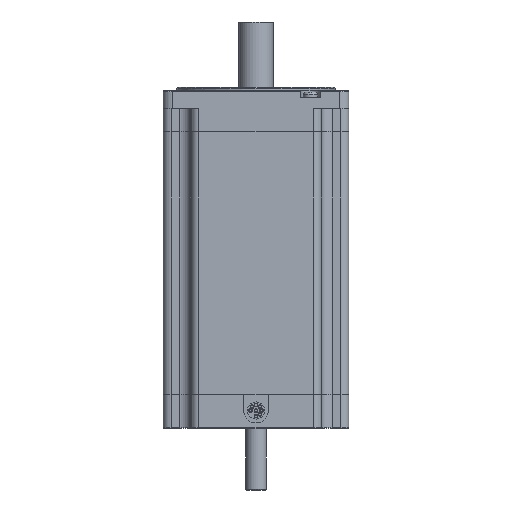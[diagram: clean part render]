
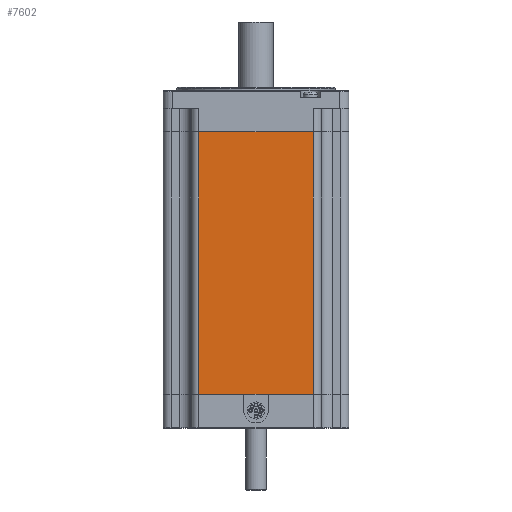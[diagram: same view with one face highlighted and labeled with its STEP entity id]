
A CAD part, front view. The second image highlights one B-rep face of the part: STEP entity #7602.
In plain terms, the highlighted planar face has unit normal (0, -1, 0).
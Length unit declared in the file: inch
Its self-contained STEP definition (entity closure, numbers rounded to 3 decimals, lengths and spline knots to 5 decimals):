
#3813 = VERTEX_POINT ( 'NONE', #6081 ) ;
#6081 = CARTESIAN_POINT ( 'NONE',  ( -1.04, -1.689, -0.75 ) ) ;
#7599 = EDGE_LOOP ( 'NONE', ( #13364, #13402, #7605, #13413 ) ) ;
#7600 = VERTEX_POINT ( 'NONE', #9735 ) ;
#7602 = ADVANCED_FACE ( 'NONE', ( #9724 ), #9765, .F. ) ;
#7603 = VERTEX_POINT ( 'NONE', #9761 ) ;
#7604 = EDGE_CURVE ( 'NONE', #7600, #7603, #9785, .T. ) ;
#7605 = ORIENTED_EDGE ( 'NONE', *, *, #7604, .F. ) ;
#7609 = EDGE_CURVE ( 'NONE', #7600, #17188, #9796, .T. ) ;
#9724 = FACE_OUTER_BOUND ( 'NONE', #7599, .T. ) ;
#9735 = CARTESIAN_POINT ( 'NONE',  ( 1.04, -1.689, -5.515 ) ) ;
#9761 = CARTESIAN_POINT ( 'NONE',  ( -1.04, -1.689, -5.515 ) ) ;
#9765 = PLANE ( 'NONE',  #9790 ) ;
#9782 = DIRECTION ( 'NONE',  ( -1., 0., 0. ) ) ;
#9783 = VECTOR ( 'NONE', #9782, 39.37008 ) ;
#9784 = CARTESIAN_POINT ( 'NONE',  ( 1.04, -1.689, -5.515 ) ) ;
#9785 = LINE ( 'NONE', #9784, #9783 ) ;
#9787 = DIRECTION ( 'NONE',  ( -1., 0., 0. ) ) ;
#9788 = DIRECTION ( 'NONE',  ( 0., 1., 0. ) ) ;
#9789 = CARTESIAN_POINT ( 'NONE',  ( 1.04, -1.689, -5.515 ) ) ;
#9790 = AXIS2_PLACEMENT_3D ( 'NONE', #9789, #9788, #9787 ) ;
#9791 = DIRECTION ( 'NONE',  ( 0., 0., 1. ) ) ;
#9792 = VECTOR ( 'NONE', #9791, 39.37008 ) ;
#9795 = CARTESIAN_POINT ( 'NONE',  ( 1.04, -1.689, -5.515 ) ) ;
#9796 = LINE ( 'NONE', #9795, #9792 ) ;
#11305 = DIRECTION ( 'NONE',  ( 0., 0., 1. ) ) ;
#11306 = CARTESIAN_POINT ( 'NONE',  ( -1.04, -1.689, -5.515 ) ) ;
#11342 = VECTOR ( 'NONE', #11305, 39.37008 ) ;
#11348 = LINE ( 'NONE', #11306, #11342 ) ;
#12226 = CARTESIAN_POINT ( 'NONE',  ( 1.04, -1.689, -0.75 ) ) ;
#12240 = CARTESIAN_POINT ( 'NONE',  ( 1.04, -1.689, -0.75 ) ) ;
#12241 = LINE ( 'NONE', #12240, #12283 ) ;
#12282 = DIRECTION ( 'NONE',  ( -1., 0., 0. ) ) ;
#12283 = VECTOR ( 'NONE', #12282, 39.37008 ) ;
#13364 = ORIENTED_EDGE ( 'NONE', *, *, #17210, .T. ) ;
#13386 = EDGE_CURVE ( 'NONE', #7603, #3813, #11348, .T. ) ;
#13402 = ORIENTED_EDGE ( 'NONE', *, *, #13386, .F. ) ;
#13413 = ORIENTED_EDGE ( 'NONE', *, *, #7609, .T. ) ;
#17188 = VERTEX_POINT ( 'NONE', #12226 ) ;
#17210 = EDGE_CURVE ( 'NONE', #17188, #3813, #12241, .T. ) ;
